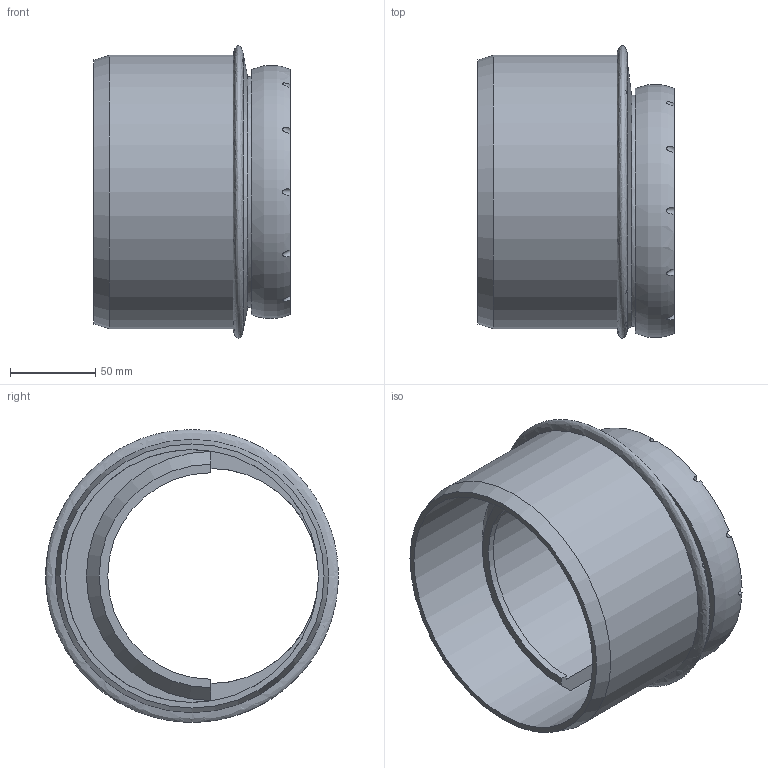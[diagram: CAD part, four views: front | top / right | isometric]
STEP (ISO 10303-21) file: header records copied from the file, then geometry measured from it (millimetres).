
FILE_DESCRIPTION(/* description */ (''),/* implementation_level */ '2;1');
FILE_NAME(/* name */ 'H:\Geberit-Teile\Export\Reduktion_ART\stp\393776.stp',/* time_stamp */ '2017-02-28T08:32:40+01:00',/* author */ ('seihe2'),/* organization */ (''),/* preprocessor_version */ 'ST-DEVELOPER v15.2',/* originating_system */ 'Autodesk Inventor 2014',/* authorisation */ '');
FILE_SCHEMA (('AUTOMOTIVE_DESIGN { 1 0 10303 214 3 1 1 }'));
Length unit declared in the file: millimetre
Products named in the file (1): 393776
Bounding box: 114.89 x 171.5 x 171.5 mm (x, y, z)
Volume: 452913.4 mm3; surface area: 157351.9 mm2
Topology: 1 solids, 1 shells, 36 faces, 92 edges, 61 vertices
Faces by surface type: cylinder 20, plane 11, cone 2, bspline 2, torus 1
Full cylindrical faces by diameter (mm): 126 x1, 126.4 x1, 135.5 x1, 138.1 x1, 148.25 x1, 160.25 x1
Entity records: 1584 total; most frequent: CARTESIAN_POINT 670, DIRECTION 190, ORIENTED_EDGE 162, AXIS2_PLACEMENT_3D 87, EDGE_CURVE 81, VERTEX_POINT 58, EDGE_LOOP 49, CIRCLE 39
